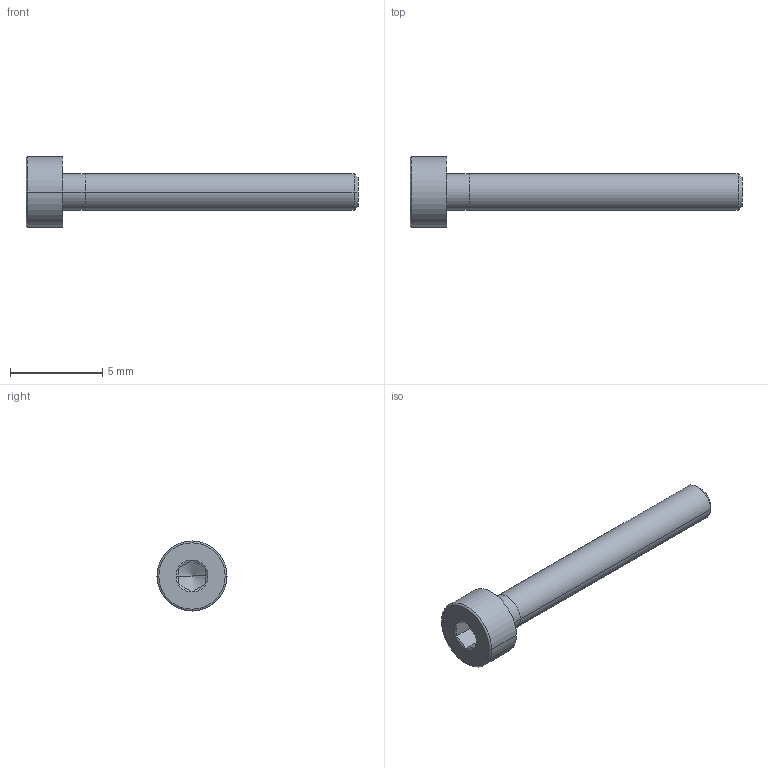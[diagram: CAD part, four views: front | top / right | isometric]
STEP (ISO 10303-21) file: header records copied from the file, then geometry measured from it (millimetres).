
FILE_DESCRIPTION(/* description */ ('VariCAD 2010-1.04 AP-203'),/* implementation_level */ '2;1');
FILE_NAME(/* name */ '0353-99-18',/* time_stamp */ '2010-01-13T14:33:24-07:00',/* author */ (''),/* organization */ (''),/* preprocessor_version */ 'ST-DEVELOPER v12',/* originating_system */ 'VariCAD 2010-1.04; kernel version (20090520)',/* authorisation */ '');
FILE_SCHEMA (('CONFIG_CONTROL_DESIGN'));
Length unit declared in the file: millimetre
Products named in the file (1): Part
Bounding box: 18 x 3.8 x 3.8 mm (x, y, z)
Volume: 70.4 mm3; surface area: 299.6 mm2
Topology: 2 solids, 2 shells, 35 faces, 72 edges, 41 vertices
Faces by surface type: cone 12, plane 11, cylinder 10, torus 2
Entity records: 1002 total; most frequent: CARTESIAN_POINT 229, DIRECTION 162, ORIENTED_EDGE 140, EDGE_CURVE 70, AXIS2_PLACEMENT_3D 70, VERTEX_POINT 41, EDGE_LOOP 39, ADVANCED_FACE 35
